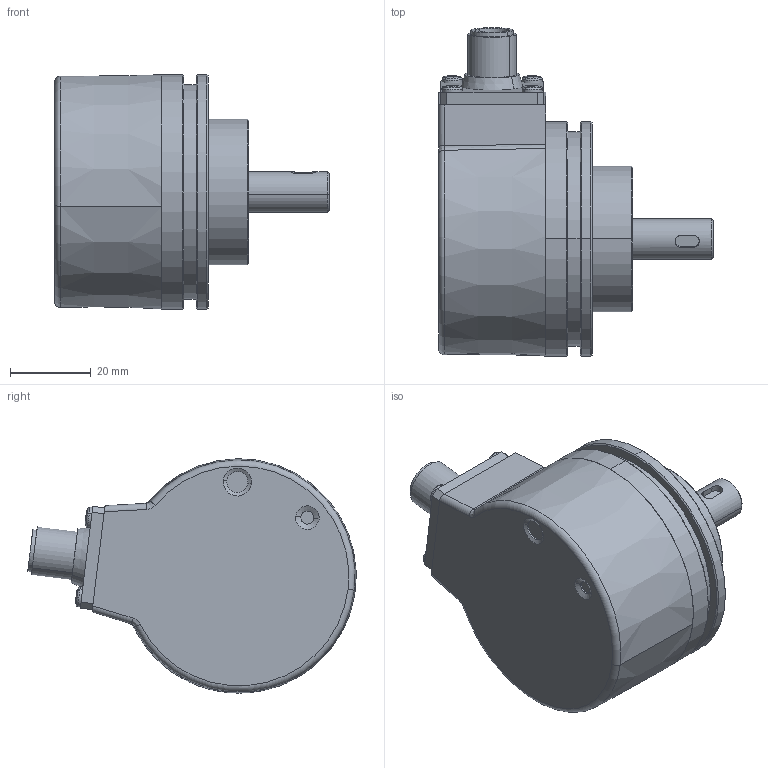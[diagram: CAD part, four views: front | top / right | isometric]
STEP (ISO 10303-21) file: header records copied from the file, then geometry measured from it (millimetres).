
FILE_DESCRIPTION (( 'STEP AP214' ), '1' );
FILE_NAME ('5814SIL.1AX6.XXXX.STEP', '2010-07-22T06:45:17', ( 'admin' ), ( 'Fritz Kübler GmbH' ), 'SwSTEP 2.0', 'SolidWorks 2009', '' );
FILE_SCHEMA (( 'AUTOMOTIVE_DESIGN' ));
Length unit declared in the file: millimetre
Products named in the file (1): 5814SIL.1AX6.XXXX
Bounding box: 68 x 81.25 x 58 mm (x, y, z)
Surface area: 19476 mm2 (no closed solid volume)
Topology: 0 solids, 17 shells, 227 faces, 589 edges, 373 vertices
Faces by surface type: plane 82, cylinder 65, cone 34, sphere 24, torus 18, bspline 4
Entity records: 9714 total; most frequent: CARTESIAN_POINT 1664, DIRECTION 1290, ORIENTED_EDGE 1016, EDGE_CURVE 557, AXIS2_PLACEMENT_3D 525, VERTEX_POINT 357, CIRCLE 301, EDGE_LOOP 259
